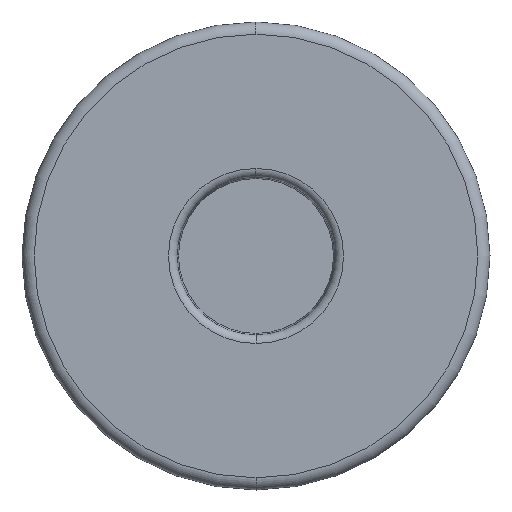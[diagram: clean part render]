
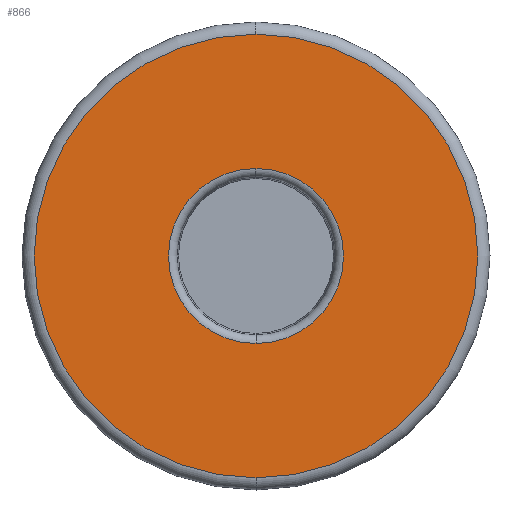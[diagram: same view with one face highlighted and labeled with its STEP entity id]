
A CAD part, left-side view. The second image highlights one B-rep face of the part: STEP entity #866.
In plain terms, the highlighted planar face has unit normal (-1, 0, 0).
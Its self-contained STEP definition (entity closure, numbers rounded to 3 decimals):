
#55 = CIRCLE ( 'NONE', #56, 7.2 ) ;
#56 = AXIS2_PLACEMENT_3D ( 'NONE', #57, #58, #59 ) ;
#57 = CARTESIAN_POINT ( 'NONE',  ( 0., 0., 0. ) ) ;
#58 = DIRECTION ( 'NONE',  ( 1., 0., 0. ) ) ;
#59 = DIRECTION ( 'NONE',  ( 0., 0., -1. ) ) ;
#234 = CARTESIAN_POINT ( 'NONE',  ( 0., 0., -18.25 ) ) ;
#261 = CARTESIAN_POINT ( 'NONE',  ( 0., 0., 18.25 ) ) ;
#262 = FACE_BOUND ( 'NONE', #1050, .T. ) ;
#263 = FACE_OUTER_BOUND ( 'NONE', #1034, .T. ) ;
#264 = PLANE ( 'NONE',  #265 ) ;
#265 = AXIS2_PLACEMENT_3D ( 'NONE', #266, #269, #270 ) ;
#266 = CARTESIAN_POINT ( 'NONE',  ( 0., 18.25, 0. ) ) ;
#269 = DIRECTION ( 'NONE',  ( -1., 0., 0. ) ) ;
#270 = DIRECTION ( 'NONE',  ( 0., 0., 1. ) ) ;
#372 = CARTESIAN_POINT ( 'NONE',  ( 0., 0., -7.2 ) ) ;
#502 = CARTESIAN_POINT ( 'NONE',  ( 0., 0., 7.2 ) ) ;
#689 = EDGE_CURVE ( 'NONE', #1026, #1002, #55, .T. ) ;
#835 = EDGE_CURVE ( 'NONE', #1261, #1204, #1401, .T. ) ;
#866 = ADVANCED_FACE ( 'NONE', ( #262, #263 ), #264, .T. ) ;
#887 = EDGE_CURVE ( 'NONE', #1204, #1261, #1095, .T. ) ;
#888 = ORIENTED_EDGE ( 'NONE', *, *, #887, .F. ) ;
#935 = EDGE_CURVE ( 'NONE', #1002, #1026, #1309, .T. ) ;
#1002 = VERTEX_POINT ( 'NONE', #372 ) ;
#1026 = VERTEX_POINT ( 'NONE', #502 ) ;
#1034 = EDGE_LOOP ( 'NONE', ( #888, #1065 ) ) ;
#1050 = EDGE_LOOP ( 'NONE', ( #1435, #1077 ) ) ;
#1065 = ORIENTED_EDGE ( 'NONE', *, *, #835, .F. ) ;
#1077 = ORIENTED_EDGE ( 'NONE', *, *, #689, .T. ) ;
#1095 = CIRCLE ( 'NONE', #1096, 18.25 ) ;
#1096 = AXIS2_PLACEMENT_3D ( 'NONE', #1097, #1099, #1100 ) ;
#1097 = CARTESIAN_POINT ( 'NONE',  ( 0., 0., 0. ) ) ;
#1099 = DIRECTION ( 'NONE',  ( 1., 0., 0. ) ) ;
#1100 = DIRECTION ( 'NONE',  ( 0., 0., -1. ) ) ;
#1204 = VERTEX_POINT ( 'NONE', #234 ) ;
#1261 = VERTEX_POINT ( 'NONE', #261 ) ;
#1309 = CIRCLE ( 'NONE', #1310, 7.2 ) ;
#1310 = AXIS2_PLACEMENT_3D ( 'NONE', #1311, #1312, #1313 ) ;
#1311 = CARTESIAN_POINT ( 'NONE',  ( 0., 0., 0. ) ) ;
#1312 = DIRECTION ( 'NONE',  ( 1., 0., 0. ) ) ;
#1313 = DIRECTION ( 'NONE',  ( 0., 0., -1. ) ) ;
#1401 = CIRCLE ( 'NONE', #1402, 18.25 ) ;
#1402 = AXIS2_PLACEMENT_3D ( 'NONE', #1403, #1404, #1405 ) ;
#1403 = CARTESIAN_POINT ( 'NONE',  ( 0., 0., 0. ) ) ;
#1404 = DIRECTION ( 'NONE',  ( 1., 0., 0. ) ) ;
#1405 = DIRECTION ( 'NONE',  ( 0., 0., -1. ) ) ;
#1435 = ORIENTED_EDGE ( 'NONE', *, *, #935, .T. ) ;
